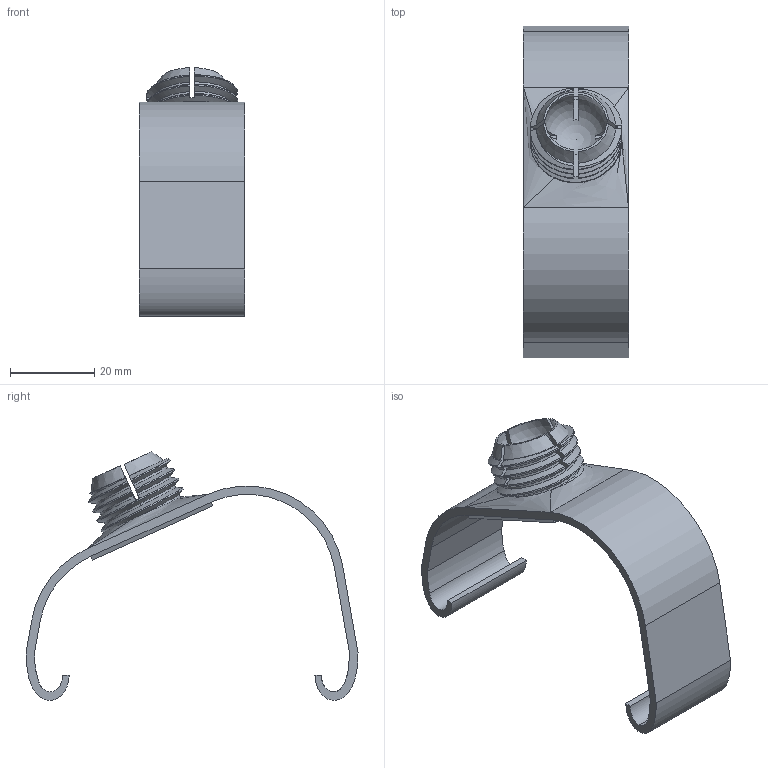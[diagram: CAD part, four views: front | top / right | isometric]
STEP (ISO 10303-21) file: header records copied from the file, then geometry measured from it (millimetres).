
FILE_DESCRIPTION(/* description */ (''),/* implementation_level */ '2;1');
FILE_NAME(/* name */ 'D:/Project/Freelander/Dashcam Mirror Mount.step',/* time_stamp */ '2019-04-18T11:55:17+02:00',/* author */ ('d.ganzinga'),/* organization */ (''),/* preprocessor_version */ 'ST-DEVELOPER v18',/* originating_system */ 'Autodesk Translation Framework v8.2.0.1029',/* authorisation */ '');
FILE_SCHEMA (('AUTOMOTIVE_DESIGN { 1 0 10303 214 3 1 1 }'));
Length unit declared in the file: millimetre
Products named in the file (1): Dashcam Mirror Mount
Bounding box: 25 x 79 x 59.14 mm (x, y, z)
Volume: 11612.2 mm3; surface area: 11285.1 mm2
Topology: 1 solids, 1 shells, 217 faces, 548 edges, 332 vertices
Faces by surface type: plane 148, bspline 34, cylinder 30, cone 4, sphere 1
Full cylindrical faces by diameter (mm): 18.938 x1, 21.791 x1
Entity records: 7972 total; most frequent: CARTESIAN_POINT 3099, ORIENTED_EDGE 1094, DIRECTION 849, EDGE_CURVE 547, LINE 373, VECTOR 373, VERTEX_POINT 332, AXIS2_PLACEMENT_3D 238
